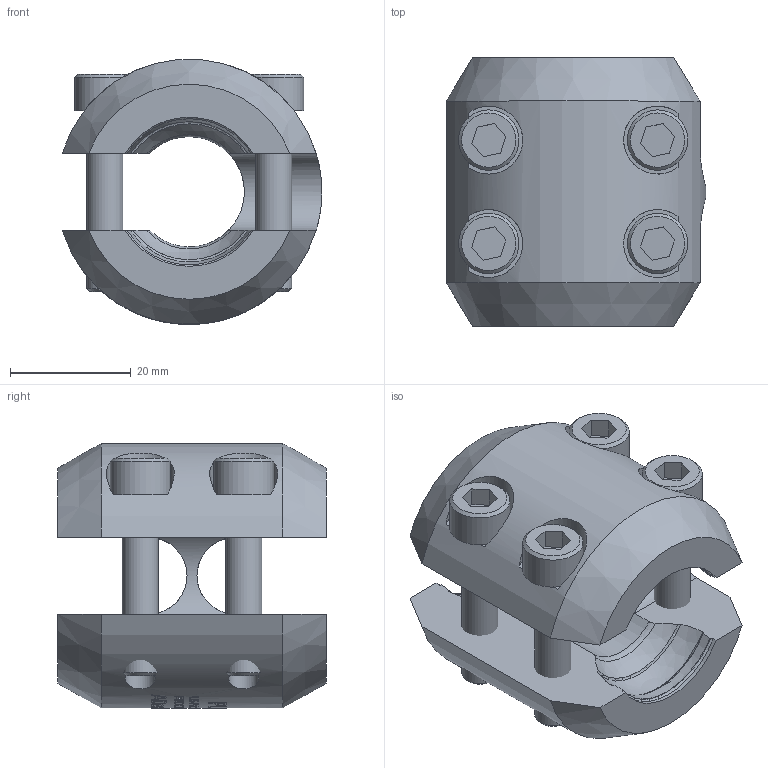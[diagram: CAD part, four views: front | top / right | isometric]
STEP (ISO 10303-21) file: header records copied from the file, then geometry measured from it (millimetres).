
FILE_DESCRIPTION(/* description */ (''),/* implementation_level */ '2;1');
FILE_NAME(/* name */ 'C:\Users\owner\Desktop\PL SERIES\PL-KNK.stp',/* time_stamp */ '2017-09-27T16:32:27-04:00',/* author */ ('owner'),/* organization */ (''),/* preprocessor_version */ 'ST-DEVELOPER v16.5',/* originating_system */ 'Autodesk Inventor 2017',/* authorisation */ '');
FILE_SCHEMA (('CONFIG_CONTROL_DESIGN'));
Length unit declared in the file: inch
Products named in the file (3): PL-KNK; 60011; 60024
Assembly tree (5 placements, depth 2):
  PL-KNK
    60011
    60024  x4
Bounding box: 42.98 x 44.45 x 43.84 mm (x, y, z)
Volume: 38037 mm3; surface area: 14906 mm2
Topology: 5 solids, 5 shells, 823 faces, 2242 edges, 1496 vertices
Faces by surface type: plane 345, bspline 339, cylinder 95, torus 16, sphere 16, cone 12
Full cylindrical faces by diameter (mm): 4.928 x4, 5.994 x4, 6.782 x4, 10 x4
Entity records: 33439 total; most frequent: CARTESIAN_POINT 15339, ORIENTED_EDGE 4228, DIRECTION 2810, EDGE_CURVE 2114, VERTEX_POINT 1418, LINE 978, VECTOR 978, AXIS2_PLACEMENT_3D 916
